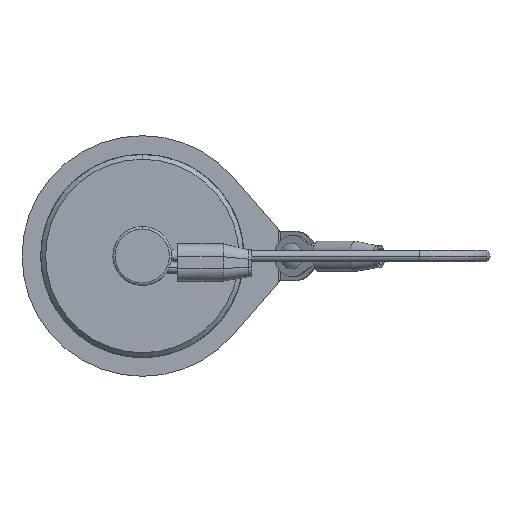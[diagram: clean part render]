
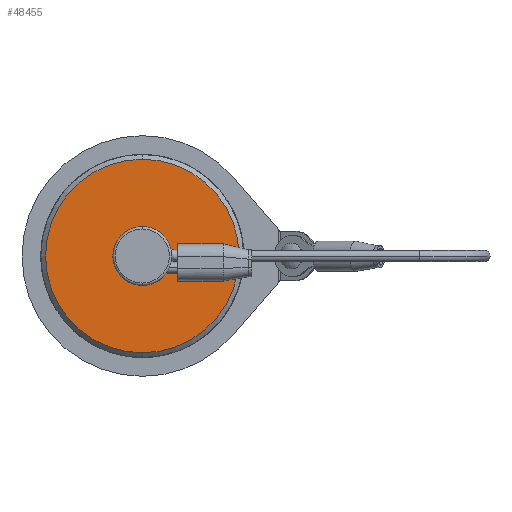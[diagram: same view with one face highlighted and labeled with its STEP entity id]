
A CAD part, left-side view. The second image highlights one B-rep face of the part: STEP entity #48455.
In plain terms, the highlighted planar face has unit normal (-1, 0, 0).
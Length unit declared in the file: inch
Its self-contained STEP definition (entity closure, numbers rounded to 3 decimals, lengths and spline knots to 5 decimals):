
#725 = ORIENTED_EDGE ( 'NONE', *, *, #45995, .T. ) ;
#4637 = EDGE_CURVE ( 'NONE', #59867, #89103, #45466, .T. ) ;
#7924 = DIRECTION ( 'NONE',  ( 0., 0., -1. ) ) ;
#8183 = VERTEX_POINT ( 'NONE', #50367 ) ;
#8978 = PLANE ( 'NONE',  #27849 ) ;
#9968 = DIRECTION ( 'NONE',  ( 0., 0., -1. ) ) ;
#10577 = AXIS2_PLACEMENT_3D ( 'NONE', #77910, #47059, #7924 ) ;
#15329 = DIRECTION ( 'NONE',  ( 1., 0., 0. ) ) ;
#16722 = FACE_BOUND ( 'NONE', #40669, .T. ) ;
#19442 = CARTESIAN_POINT ( 'NONE',  ( 0.25, 0., 0.8215 ) ) ;
#20205 = DIRECTION ( 'NONE',  ( 1., 0., 0. ) ) ;
#22468 = AXIS2_PLACEMENT_3D ( 'NONE', #35677, #20205, #9968 ) ;
#22775 = CARTESIAN_POINT ( 'NONE',  ( 0.25, 0., -0.25 ) ) ;
#23746 = CIRCLE ( 'NONE', #10577, 0.8215 ) ;
#27849 = AXIS2_PLACEMENT_3D ( 'NONE', #71744, #30126, #40885 ) ;
#30126 = DIRECTION ( 'NONE',  ( -1., 0., 0. ) ) ;
#31627 = CARTESIAN_POINT ( 'NONE',  ( 0.25, 0., -0.8215 ) ) ;
#34142 = AXIS2_PLACEMENT_3D ( 'NONE', #99325, #44834, #99842 ) ;
#35677 = CARTESIAN_POINT ( 'NONE',  ( 0.25, 0., 0. ) ) ;
#40669 = EDGE_LOOP ( 'NONE', ( #725, #49645 ) ) ;
#40885 = DIRECTION ( 'NONE',  ( 0., 0., 1. ) ) ;
#44834 = DIRECTION ( 'NONE',  ( 1., 0., 0. ) ) ;
#45466 = CIRCLE ( 'NONE', #22468, 0.8215 ) ;
#45717 = CIRCLE ( 'NONE', #34142, 0.25 ) ;
#45995 = EDGE_CURVE ( 'NONE', #100379, #8183, #45717, .T. ) ;
#46713 = DIRECTION ( 'NONE',  ( 0., 0., -1. ) ) ;
#47059 = DIRECTION ( 'NONE',  ( 1., 0., 0. ) ) ;
#48102 = FACE_OUTER_BOUND ( 'NONE', #91443, .T. ) ;
#48455 = ADVANCED_FACE ( 'NONE', ( #16722, #48102 ), #8978, .T. ) ;
#49645 = ORIENTED_EDGE ( 'NONE', *, *, #71438, .T. ) ;
#50367 = CARTESIAN_POINT ( 'NONE',  ( 0.25, 0., 0.25 ) ) ;
#59329 = AXIS2_PLACEMENT_3D ( 'NONE', #85804, #15329, #46713 ) ;
#59867 = VERTEX_POINT ( 'NONE', #19442 ) ;
#71438 = EDGE_CURVE ( 'NONE', #8183, #100379, #82327, .T. ) ;
#71744 = CARTESIAN_POINT ( 'NONE',  ( 0.25, 0.8215, 0. ) ) ;
#77910 = CARTESIAN_POINT ( 'NONE',  ( 0.25, 0., 0. ) ) ;
#81614 = EDGE_CURVE ( 'NONE', #89103, #59867, #23746, .T. ) ;
#82327 = CIRCLE ( 'NONE', #59329, 0.25 ) ;
#85804 = CARTESIAN_POINT ( 'NONE',  ( 0.25, 0., 0. ) ) ;
#87881 = ORIENTED_EDGE ( 'NONE', *, *, #4637, .F. ) ;
#89103 = VERTEX_POINT ( 'NONE', #31627 ) ;
#91443 = EDGE_LOOP ( 'NONE', ( #99205, #87881 ) ) ;
#99205 = ORIENTED_EDGE ( 'NONE', *, *, #81614, .F. ) ;
#99325 = CARTESIAN_POINT ( 'NONE',  ( 0.25, 0., 0. ) ) ;
#99842 = DIRECTION ( 'NONE',  ( 0., 0., -1. ) ) ;
#100379 = VERTEX_POINT ( 'NONE', #22775 ) ;
